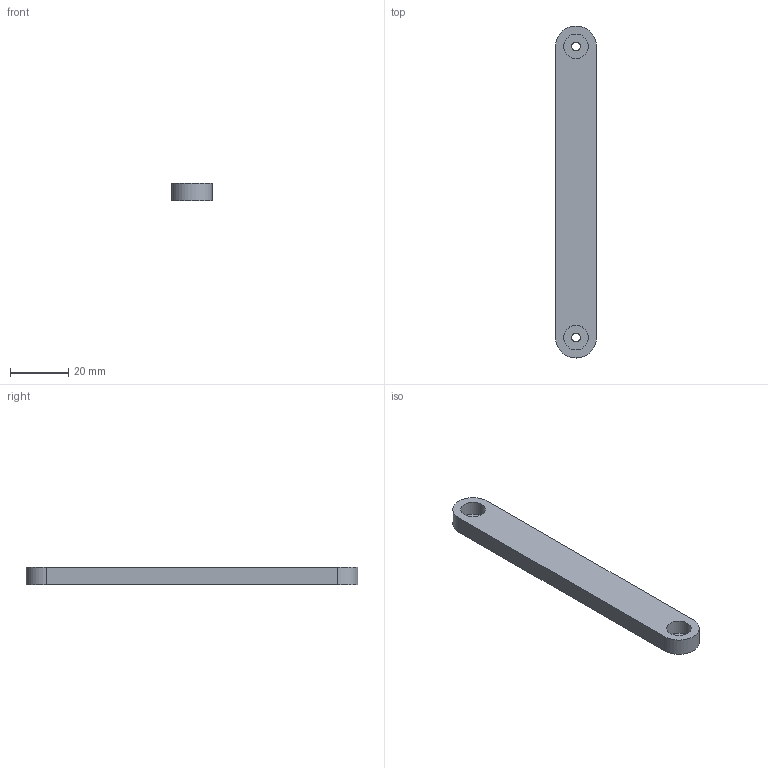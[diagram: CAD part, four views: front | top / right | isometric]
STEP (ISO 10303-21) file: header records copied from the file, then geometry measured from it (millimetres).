
FILE_DESCRIPTION(/* description */ (''),/* implementation_level */ '2;1');
FILE_NAME(/* name */ 'Link 1.step',/* time_stamp */ '2026-11-10T17:34:05+07:00',/* author */ (''),/* organization */ (''),/* preprocessor_version */ 'ST-DEVELOPER v20.2',/* originating_system */ 'Autodesk Translation Framework v15.17.0.0',/* authorisation */ '');
FILE_SCHEMA (('AUTOMOTIVE_DESIGN { 1 0 10303 214 3 1 1 }'));
Length unit declared in the file: millimetre
Products named in the file (1): 2026-11-08-14-46-40-832
Bounding box: 14 x 114 x 6 mm (x, y, z)
Volume: 8755.3 mm3; surface area: 4826.2 mm2
Topology: 1 solids, 1 shells, 12 faces, 24 edges, 16 vertices
Faces by surface type: cylinder 6, plane 6
Full cylindrical faces by diameter (mm): 3 x2, 8.4 x2
Entity records: 368 total; most frequent: DIRECTION 62, CARTESIAN_POINT 53, ORIENTED_EDGE 48, AXIS2_PLACEMENT_3D 25, EDGE_CURVE 24, EDGE_LOOP 18, VERTEX_POINT 16, FACE_OUTER_BOUND 12
